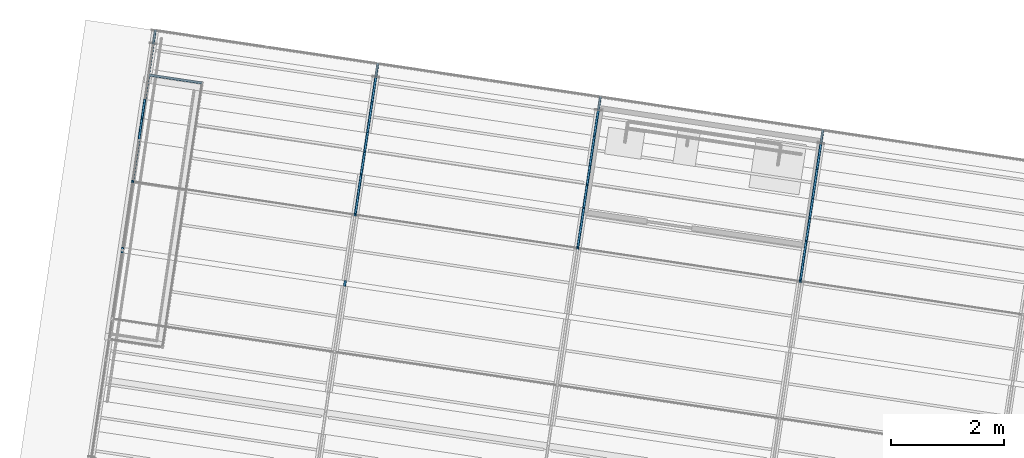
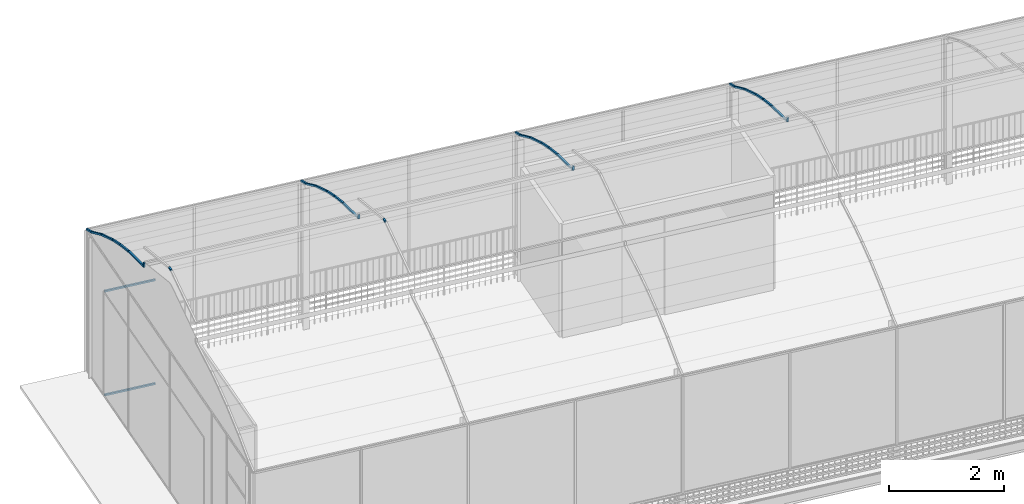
# One storey, part 20 of 34: 32 members, 1 element without a shape of its own.
"""IFC4 building model written with IfcOpenShell, lengths in metres."""

from ifc_helpers import new_model, si_unit, direction, frame, origin_with_axes, place, context, subcontext, project, spatial, rectangle, extrude, material, material_profile, profile_set, profile_usage, type_object, element, aggregate, save


model = new_model("IFC4")

# Units and contexts
model_context = context("Model", 3, precision=1e-05, world=origin_with_axes(), true_north=direction((0.0, 1.0)))
body_context = subcontext(model_context, "Body", "Model", "MODEL_VIEW")
ifc_project = project(units=[si_unit("VOLUMEUNIT", "CUBIC_METRE"), si_unit("LENGTHUNIT", "METRE"), si_unit("AREAUNIT", "SQUARE_METRE")], contexts=[model_context])

# Site, building, storey
site_placement = place(None, origin_with_axes())
site = spatial("IfcSite", under=ifc_project, at=site_placement, Name="Lares · Rua das Mercês · artigo 4771")
building_placement = place(site_placement, frame((12.0, 10.2, 13.9), z_axis=(0.0, 0.0, 1.0), x_axis=(0.989015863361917, -0.147809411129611, 0.0)))
building = spatial("IfcBuilding", under=site, at=building_placement, Name="Casa Sobreposta")
storey_placement = place(building_placement, frame((0.0, 0.0, 3.24), z_axis=(0.0, 0.0, 1.0), x_axis=(1.0, 0.0, 0.0)))
storey = spatial("IfcBuildingStorey", under=building, at=storey_placement, Name="01 · Jardim de inverno", Elevation=17.14)

# Roof, members
ifc_material_1 = material(Name="Vidro / Normalglas", Category="glass")
roof_placement = place(storey_placement, frame((0.0, 0.0, -3.24), z_axis=(0.0, 0.0, 1.0), x_axis=(1.0, 0.0, 0.0)))
roof = element("IfcRoof", 1, at=roof_placement, inside=storey, material=ifc_material_1, Name="Cobertura translúcida da estufa", PredefinedType="BARREL_ROOF")
ifc_material_2 = material(Name="Aço pintado / Stahl lackiert", Category="steel")
ifc_material_profile = material_profile(ifc_material_2, rectangle(XDim=0.035, YDim=0.035))
ifc_profile_set = profile_set([ifc_material_profile], Name="R0.035")
ifc_profile_usage_1 = profile_usage(ifc_profile_set)
member_type = type_object("IfcMemberType", Name="R0.035 / steel", PredefinedType="NOTDEFINED", material=ifc_profile_set)
member_1_placement = place(roof_placement, frame((0.0, 2.40274082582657, 7.96518238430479), z_axis=(0.0, 1.0, 0.0), x_axis=(1.0, 0.0, 0.0)))
member_1 = element("IfcMember", 2, at=member_1_placement, type_object=member_type, material=ifc_profile_usage_1, Name="Arco estufa 0/8", context=body_context, shape_type="SweptSolid", body=[
    extrude(rectangle(XDim=0.035, YDim=0.035), origin_with_axes(), (0.0, 0.0, 1.0), 0.0949594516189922),
])
ifc_profile_usage_2 = profile_usage(ifc_profile_set)
member_2_placement = place(roof_placement, frame((4.0, 2.40274082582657, 7.96518238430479), z_axis=(0.0, 1.0, 0.0), x_axis=(1.0, 0.0, 0.0)))
member_2 = element("IfcMember", 3, at=member_2_placement, type_object=member_type, material=ifc_profile_usage_2, Name="Arco estufa 4/8", context=body_context, shape_type="SweptSolid", body=[
    extrude(rectangle(XDim=0.035, YDim=0.035), origin_with_axes(), (0.0, 0.0, 1.0), 0.0949594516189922),
])
ifc_profile_usage_3 = profile_usage(ifc_profile_set)
member_3_placement = place(roof_placement, frame((0.0, 3.68002089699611, 7.30067689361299), z_axis=(0.0, 0.0651953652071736, -0.997872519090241), x_axis=(1.0, 0.0, 0.0)))
member_3 = element("IfcMember", 4, at=member_3_placement, type_object=member_type, material=ifc_profile_usage_3, Name="Arco estufa 0/10", context=body_context, shape_type="SweptSolid", body=[
    extrude(rectangle(XDim=0.035, YDim=0.035), origin_with_axes(), (0.0, 0.0, 1.0), 0.0875840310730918),
])
ifc_profile_usage_4 = profile_usage(ifc_profile_set)
member_4_placement = place(roof_placement, frame((4.0, 3.68002089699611, 7.30067689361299), z_axis=(0.0, 0.0651953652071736, -0.997872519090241), x_axis=(1.0, 0.0, 0.0)))
member_4 = element("IfcMember", 5, at=member_4_placement, type_object=member_type, material=ifc_profile_usage_4, Name="Arco estufa 4/10", context=body_context, shape_type="SweptSolid", body=[
    extrude(rectangle(XDim=0.035, YDim=0.035), origin_with_axes(), (0.0, 0.0, 1.0), 0.0875840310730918),
])
ifc_profile_usage_5 = profile_usage(ifc_profile_set)
member_5_placement = place(roof_placement, frame((8.0, 3.68002089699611, 7.30067689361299), z_axis=(0.0, 0.0651953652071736, -0.997872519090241), x_axis=(1.0, 0.0, 0.0)))
member_5 = element("IfcMember", 6, at=member_5_placement, type_object=member_type, material=ifc_profile_usage_5, Name="Arco estufa 8/10", context=body_context, shape_type="SweptSolid", body=[
    extrude(rectangle(XDim=0.035, YDim=0.035), origin_with_axes(), (0.0, 0.0, 1.0), 0.0875840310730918),
])
ifc_profile_usage_6 = profile_usage(ifc_profile_set)
member_6_placement = place(roof_placement, frame((12.0, 3.68002089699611, 7.30067689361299), z_axis=(0.0, 0.0651953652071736, -0.997872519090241), x_axis=(1.0, 0.0, 0.0)))
member_6 = element("IfcMember", 7, at=member_6_placement, type_object=member_type, material=ifc_profile_usage_6, Name="Arco estufa 12/10", context=body_context, shape_type="SweptSolid", body=[
    extrude(rectangle(XDim=0.035, YDim=0.035), origin_with_axes(), (0.0, 0.0, 1.0), 0.0875840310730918),
])
ifc_profile_usage_7 = profile_usage(ifc_profile_set)
member_7_placement = place(roof_placement, frame((0.0, 3.68573096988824, 7.21327919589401), z_axis=(0.0, 0.977996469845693, -0.208621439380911), x_axis=(1.0, 0.0, 0.0)))
member_7 = element("IfcMember", 8, at=member_7_placement, type_object=member_type, material=ifc_profile_usage_7, Name="Arco estufa 0/11", context=body_context, shape_type="SweptSolid", body=[
    extrude(rectangle(XDim=0.035, YDim=0.035), origin_with_axes(), (0.0, 0.0, 1.0), 0.737400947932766),
])
ifc_profile_usage_8 = profile_usage(ifc_profile_set)
member_8_placement = place(roof_placement, frame((4.0, 3.68573096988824, 7.21327919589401), z_axis=(0.0, 0.977996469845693, -0.208621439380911), x_axis=(1.0, 0.0, 0.0)))
member_8 = element("IfcMember", 9, at=member_8_placement, type_object=member_type, material=ifc_profile_usage_8, Name="Arco estufa 4/11", context=body_context, shape_type="SweptSolid", body=[
    extrude(rectangle(XDim=0.035, YDim=0.035), origin_with_axes(), (0.0, 0.0, 1.0), 0.737400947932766),
])
ifc_profile_usage_9 = profile_usage(ifc_profile_set)
member_9_placement = place(roof_placement, frame((8.0, 3.68573096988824, 7.21327919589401), z_axis=(0.0, 0.977996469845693, -0.208621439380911), x_axis=(1.0, 0.0, 0.0)))
member_9 = element("IfcMember", 10, at=member_9_placement, type_object=member_type, material=ifc_profile_usage_9, Name="Arco estufa 8/11", context=body_context, shape_type="SweptSolid", body=[
    extrude(rectangle(XDim=0.035, YDim=0.035), origin_with_axes(), (0.0, 0.0, 1.0), 0.737400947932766),
])
ifc_profile_usage_10 = profile_usage(ifc_profile_set)
member_10_placement = place(roof_placement, frame((12.0, 3.68573096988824, 7.21327919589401), z_axis=(0.0, 0.977996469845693, -0.208621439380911), x_axis=(1.0, 0.0, 0.0)))
member_10 = element("IfcMember", 11, at=member_10_placement, type_object=member_type, material=ifc_profile_usage_10, Name="Arco estufa 12/11", context=body_context, shape_type="SweptSolid", body=[
    extrude(rectangle(XDim=0.035, YDim=0.035), origin_with_axes(), (0.0, 0.0, 1.0), 0.737400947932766),
])
ifc_profile_usage_11 = profile_usage(ifc_profile_set)
member_11_placement = place(roof_placement, frame((0.0, 4.40690649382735, 7.05944154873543), z_axis=(0.0, 0.958508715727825, -0.285063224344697), x_axis=(1.0, 0.0, 0.0)))
member_11 = element("IfcMember", 12, at=member_11_placement, type_object=member_type, material=ifc_profile_usage_11, Name="Arco estufa 0/12", context=body_context, shape_type="SweptSolid", body=[
    extrude(rectangle(XDim=0.035, YDim=0.035), origin_with_axes(), (0.0, 0.0, 1.0), 0.426177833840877),
])
ifc_profile_usage_12 = profile_usage(ifc_profile_set)
member_12_placement = place(roof_placement, frame((4.0, 4.40690649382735, 7.05944154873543), z_axis=(0.0, 0.958508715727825, -0.285063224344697), x_axis=(1.0, 0.0, 0.0)))
member_12 = element("IfcMember", 13, at=member_12_placement, type_object=member_type, material=ifc_profile_usage_12, Name="Arco estufa 4/12", context=body_context, shape_type="SweptSolid", body=[
    extrude(rectangle(XDim=0.035, YDim=0.035), origin_with_axes(), (0.0, 0.0, 1.0), 0.426177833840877),
])
ifc_profile_usage_13 = profile_usage(ifc_profile_set)
member_13_placement = place(roof_placement, frame((8.0, 4.40690649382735, 7.05944154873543), z_axis=(0.0, 0.958508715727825, -0.285063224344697), x_axis=(1.0, 0.0, 0.0)))
member_13 = element("IfcMember", 14, at=member_13_placement, type_object=member_type, material=ifc_profile_usage_13, Name="Arco estufa 8/12", context=body_context, shape_type="SweptSolid", body=[
    extrude(rectangle(XDim=0.035, YDim=0.035), origin_with_axes(), (0.0, 0.0, 1.0), 0.426177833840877),
])
ifc_profile_usage_14 = profile_usage(ifc_profile_set)
member_14_placement = place(roof_placement, frame((12.0, 4.40690649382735, 7.05944154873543), z_axis=(0.0, 0.958508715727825, -0.285063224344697), x_axis=(1.0, 0.0, 0.0)))
member_14 = element("IfcMember", 15, at=member_14_placement, type_object=member_type, material=ifc_profile_usage_14, Name="Arco estufa 12/12", context=body_context, shape_type="SweptSolid", body=[
    extrude(rectangle(XDim=0.035, YDim=0.035), origin_with_axes(), (0.0, 0.0, 1.0), 0.426177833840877),
])
ifc_profile_usage_15 = profile_usage(ifc_profile_set)
member_15_placement = place(roof_placement, frame((0.0, 4.81540166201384, 6.93795392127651), z_axis=(0.0, 0.941396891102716, -0.337300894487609), x_axis=(1.0, 0.0, 0.0)))
member_15 = element("IfcMember", 16, at=member_15_placement, type_object=member_type, material=ifc_profile_usage_15, Name="Arco estufa 0/13", context=body_context, shape_type="SweptSolid", body=[
    extrude(rectangle(XDim=0.035, YDim=0.035), origin_with_axes(), (0.0, 0.0, 1.0), 0.362337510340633),
])
ifc_profile_usage_16 = profile_usage(ifc_profile_set)
member_16_placement = place(roof_placement, frame((4.0, 4.81540166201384, 6.93795392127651), z_axis=(0.0, 0.941396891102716, -0.337300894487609), x_axis=(1.0, 0.0, 0.0)))
member_16 = element("IfcMember", 17, at=member_16_placement, type_object=member_type, material=ifc_profile_usage_16, Name="Arco estufa 4/13", context=body_context, shape_type="SweptSolid", body=[
    extrude(rectangle(XDim=0.035, YDim=0.035), origin_with_axes(), (0.0, 0.0, 1.0), 0.362337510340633),
])
ifc_profile_usage_17 = profile_usage(ifc_profile_set)
member_17_placement = place(roof_placement, frame((8.0, 4.81540166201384, 6.93795392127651), z_axis=(0.0, 0.941396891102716, -0.337300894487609), x_axis=(1.0, 0.0, 0.0)))
member_17 = element("IfcMember", 18, at=member_17_placement, type_object=member_type, material=ifc_profile_usage_17, Name="Arco estufa 8/13", context=body_context, shape_type="SweptSolid", body=[
    extrude(rectangle(XDim=0.035, YDim=0.035), origin_with_axes(), (0.0, 0.0, 1.0), 0.362337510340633),
])
ifc_profile_usage_18 = profile_usage(ifc_profile_set)
member_18_placement = place(roof_placement, frame((12.0, 4.81540166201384, 6.93795392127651), z_axis=(0.0, 0.941396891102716, -0.337300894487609), x_axis=(1.0, 0.0, 0.0)))
member_18 = element("IfcMember", 19, at=member_18_placement, type_object=member_type, material=ifc_profile_usage_18, Name="Arco estufa 12/13", context=body_context, shape_type="SweptSolid", body=[
    extrude(rectangle(XDim=0.035, YDim=0.035), origin_with_axes(), (0.0, 0.0, 1.0), 0.362337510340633),
])
ifc_profile_usage_19 = profile_usage(ifc_profile_set)
member_19_placement = place(roof_placement, frame((0.0, 5.15650506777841, 6.8157371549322), z_axis=(0.0, 0.915895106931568, -0.401417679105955), x_axis=(1.0, 0.0, 0.0)))
member_19 = element("IfcMember", 20, at=member_19_placement, type_object=member_type, material=ifc_profile_usage_19, Name="Arco estufa 0/14", context=body_context, shape_type="SweptSolid", body=[
    extrude(rectangle(XDim=0.035, YDim=0.035), origin_with_axes(), (0.0, 0.0, 1.0), 0.596721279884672),
])
ifc_profile_usage_20 = profile_usage(ifc_profile_set)
member_20_placement = place(roof_placement, frame((4.0, 5.15650506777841, 6.8157371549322), z_axis=(0.0, 0.915895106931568, -0.401417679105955), x_axis=(1.0, 0.0, 0.0)))
member_20 = element("IfcMember", 21, at=member_20_placement, type_object=member_type, material=ifc_profile_usage_20, Name="Arco estufa 4/14", context=body_context, shape_type="SweptSolid", body=[
    extrude(rectangle(XDim=0.035, YDim=0.035), origin_with_axes(), (0.0, 0.0, 1.0), 0.596721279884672),
])
ifc_profile_usage_21 = profile_usage(ifc_profile_set)
member_21_placement = place(roof_placement, frame((8.0, 5.15650506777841, 6.8157371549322), z_axis=(0.0, 0.915895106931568, -0.401417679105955), x_axis=(1.0, 0.0, 0.0)))
member_21 = element("IfcMember", 22, at=member_21_placement, type_object=member_type, material=ifc_profile_usage_21, Name="Arco estufa 8/14", context=body_context, shape_type="SweptSolid", body=[
    extrude(rectangle(XDim=0.035, YDim=0.035), origin_with_axes(), (0.0, 0.0, 1.0), 0.596721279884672),
])
ifc_profile_usage_22 = profile_usage(ifc_profile_set)
member_22_placement = place(roof_placement, frame((12.0, 5.15650506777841, 6.8157371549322), z_axis=(0.0, 0.915895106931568, -0.401417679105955), x_axis=(1.0, 0.0, 0.0)))
member_22 = element("IfcMember", 23, at=member_22_placement, type_object=member_type, material=ifc_profile_usage_22, Name="Arco estufa 12/14", context=body_context, shape_type="SweptSolid", body=[
    extrude(rectangle(XDim=0.035, YDim=0.035), origin_with_axes(), (0.0, 0.0, 1.0), 0.596721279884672),
])
ifc_profile_usage_23 = profile_usage(ifc_profile_set)
member_23_placement = place(roof_placement, frame((0.0, 5.70303916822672, 6.57620268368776), z_axis=(0.0, 0.878867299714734, -0.477066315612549), x_axis=(1.0, 0.0, 0.0)))
member_23 = element("IfcMember", 24, at=member_23_placement, type_object=member_type, material=ifc_profile_usage_23, Name="Arco estufa 0/15", context=body_context, shape_type="SweptSolid", body=[
    extrude(rectangle(XDim=0.035, YDim=0.035), origin_with_axes(), (0.0, 0.0, 1.0), 0.52859183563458),
])
ifc_profile_usage_24 = profile_usage(ifc_profile_set)
member_24_placement = place(roof_placement, frame((4.0, 5.70303916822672, 6.57620268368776), z_axis=(0.0, 0.878867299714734, -0.477066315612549), x_axis=(1.0, 0.0, 0.0)))
member_24 = element("IfcMember", 25, at=member_24_placement, type_object=member_type, material=ifc_profile_usage_24, Name="Arco estufa 4/15", context=body_context, shape_type="SweptSolid", body=[
    extrude(rectangle(XDim=0.035, YDim=0.035), origin_with_axes(), (0.0, 0.0, 1.0), 0.52859183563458),
])
ifc_profile_usage_25 = profile_usage(ifc_profile_set)
member_25_placement = place(roof_placement, frame((8.0, 5.70303916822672, 6.57620268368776), z_axis=(0.0, 0.878867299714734, -0.477066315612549), x_axis=(1.0, 0.0, 0.0)))
member_25 = element("IfcMember", 26, at=member_25_placement, type_object=member_type, material=ifc_profile_usage_25, Name="Arco estufa 8/15", context=body_context, shape_type="SweptSolid", body=[
    extrude(rectangle(XDim=0.035, YDim=0.035), origin_with_axes(), (0.0, 0.0, 1.0), 0.52859183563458),
])
ifc_profile_usage_26 = profile_usage(ifc_profile_set)
member_26_placement = place(roof_placement, frame((12.0, 5.70303916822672, 6.57620268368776), z_axis=(0.0, 0.878867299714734, -0.477066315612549), x_axis=(1.0, 0.0, 0.0)))
member_26 = element("IfcMember", 27, at=member_26_placement, type_object=member_type, material=ifc_profile_usage_26, Name="Arco estufa 12/15", context=body_context, shape_type="SweptSolid", body=[
    extrude(rectangle(XDim=0.035, YDim=0.035), origin_with_axes(), (0.0, 0.0, 1.0), 0.52859183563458),
])
ifc_profile_usage_27 = profile_usage(ifc_profile_set)
member_27_placement = place(roof_placement, frame((0.0, 6.16760124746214, 6.3240293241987), z_axis=(0.0, 0.932880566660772, -0.360185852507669), x_axis=(1.0, 0.0, 0.0)))
member_27 = element("IfcMember", 28, at=member_27_placement, type_object=member_type, material=ifc_profile_usage_27, Name="Arco estufa 0/16", context=body_context, shape_type="SweptSolid", body=[
    extrude(rectangle(XDim=0.035, YDim=0.035), origin_with_axes(), (0.0, 0.0, 1.0), 0.249119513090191),
])
ifc_profile_usage_28 = profile_usage(ifc_profile_set)
member_28_placement = place(roof_placement, frame((4.0, 6.16760124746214, 6.3240293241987), z_axis=(0.0, 0.932880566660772, -0.360185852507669), x_axis=(1.0, 0.0, 0.0)))
member_28 = element("IfcMember", 29, at=member_28_placement, type_object=member_type, material=ifc_profile_usage_28, Name="Arco estufa 4/16", context=body_context, shape_type="SweptSolid", body=[
    extrude(rectangle(XDim=0.035, YDim=0.035), origin_with_axes(), (0.0, 0.0, 1.0), 0.249119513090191),
])
ifc_profile_usage_29 = profile_usage(ifc_profile_set)
member_29_placement = place(roof_placement, frame((8.0, 6.16760124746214, 6.3240293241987), z_axis=(0.0, 0.932880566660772, -0.360185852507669), x_axis=(1.0, 0.0, 0.0)))
member_29 = element("IfcMember", 30, at=member_29_placement, type_object=member_type, material=ifc_profile_usage_29, Name="Arco estufa 8/16", context=body_context, shape_type="SweptSolid", body=[
    extrude(rectangle(XDim=0.035, YDim=0.035), origin_with_axes(), (0.0, 0.0, 1.0), 0.249119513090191),
])
ifc_profile_usage_30 = profile_usage(ifc_profile_set)
member_30_placement = place(roof_placement, frame((12.0, 6.16760124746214, 6.3240293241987), z_axis=(0.0, 0.932880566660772, -0.360185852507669), x_axis=(1.0, 0.0, 0.0)))
member_30 = element("IfcMember", 31, at=member_30_placement, type_object=member_type, material=ifc_profile_usage_30, Name="Arco estufa 12/16", context=body_context, shape_type="SweptSolid", body=[
    extrude(rectangle(XDim=0.035, YDim=0.035), origin_with_axes(), (0.0, 0.0, 1.0), 0.249119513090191),
])
aggregate(roof, [member_1, member_2, member_3, member_4, member_5, member_6, member_7, member_8, member_9, member_10, member_11, member_12, member_13, member_14, member_15, member_16, member_17, member_18, member_19, member_20, member_21, member_22, member_23, member_24, member_25, member_26, member_27, member_28, member_29, member_30])

# Members
ifc_profile_usage_31 = profile_usage(ifc_profile_set)
member_31_placement = place(storey_placement, frame((0.01, 5.6, 0.0), z_axis=(1.0, 0.0, 0.0), x_axis=(0.0, -1.0, 0.0)))
element("IfcMember", 32, at=member_31_placement, inside=storey, type_object=member_type, material=ifc_profile_usage_31, Name="Caixa térmica 1 · north · travessa", context=body_context, shape_type="SweptSolid", body=[
    extrude(rectangle(XDim=0.035, YDim=0.035), origin_with_axes(), (0.0, 0.0, 1.0), 0.95),
])
ifc_profile_usage_32 = profile_usage(ifc_profile_set)
member_32_placement = place(storey_placement, frame((0.01, 5.6, 2.2), z_axis=(1.0, 0.0, 0.0), x_axis=(0.0, -1.0, 0.0)))
element("IfcMember", 33, at=member_32_placement, inside=storey, type_object=member_type, material=ifc_profile_usage_32, Name="Caixa térmica 1 · north · travessa", context=body_context, shape_type="SweptSolid", body=[
    extrude(rectangle(XDim=0.035, YDim=0.035), origin_with_axes(), (0.0, 0.0, 1.0), 0.95),
])

save(model, "model.ifc")
